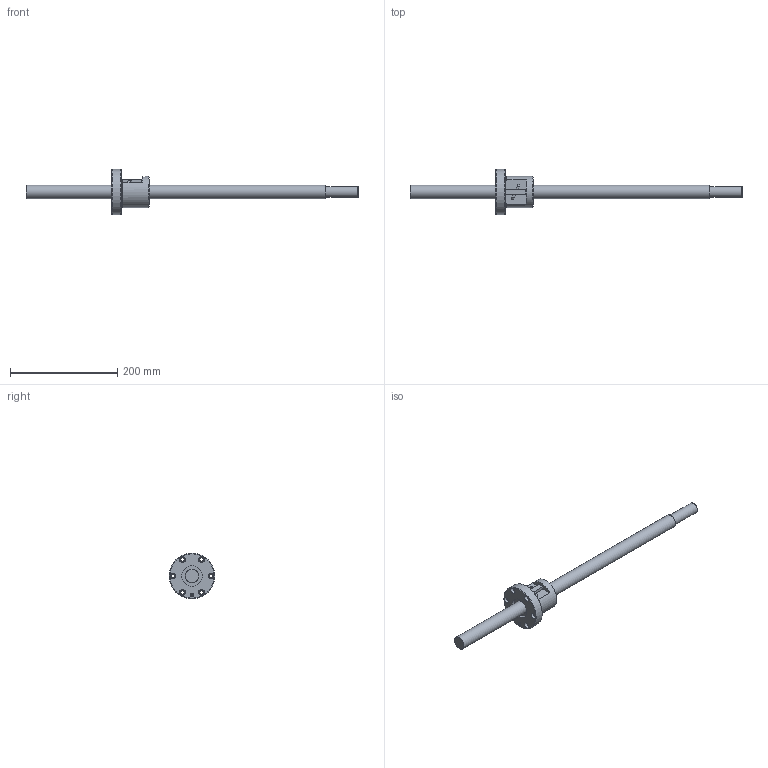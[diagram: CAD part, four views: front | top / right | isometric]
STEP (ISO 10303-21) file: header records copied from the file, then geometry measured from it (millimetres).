
FILE_DESCRIPTION(/* description */ ('STEP AP203'),/* implementation_level */ '2;1');
FILE_NAME(/* name */ 'BNF2510A-2.5RRG1+620LC5A(00)',/* time_stamp */ '2024-07-15T07:45:37+02:00',/* author */ ('License CC BY-ND 4.0'),/* organization */ ('CADENAS'),/* preprocessor_version */ 'ST-DEVELOPER v19.3',/* originating_system */ 'PARTsolutions',/* authorisation */ ' ');
FILE_SCHEMA (('CONFIG_CONTROL_DESIGN'));
Length unit declared in the file: millimetre
Products named in the file (3): BNF2510A-2.5RRG1+620LC5A(00); BNF2510A-2.5RRG1+620LC5A(00)_shaft; BNF 2510A-2.5RR_nut
Assembly tree (2 placements, depth 2):
  BNF2510A-2.5RRG1+620LC5A(00)
    BNF2510A-2.5RRG1+620LC5A(00)_shaft
    BNF 2510A-2.5RR_nut
Bounding box: 620 x 85 x 85 mm (x, y, z)
Volume: 473636.6 mm3; surface area: 83244.7 mm2
Topology: 2 solids, 2 shells, 64 faces, 141 edges, 91 vertices
Faces by surface type: cylinder 30, plane 24, cone 8, torus 2
Full cylindrical faces by diameter (mm): 3.865 x2, 4.5 x2, 4.917 x1, 6.6 x6, 11 x6, 20.3 x1, 25 x2, 38 x2, 58 x1, 85 x1
Entity records: 1655 total; most frequent: DIRECTION 292, CARTESIAN_POINT 281, ORIENTED_EDGE 190, AXIS2_PLACEMENT_3D 134, EDGE_LOOP 130, FACE_BOUND 130, EDGE_CURVE 95, VERTEX_POINT 81
